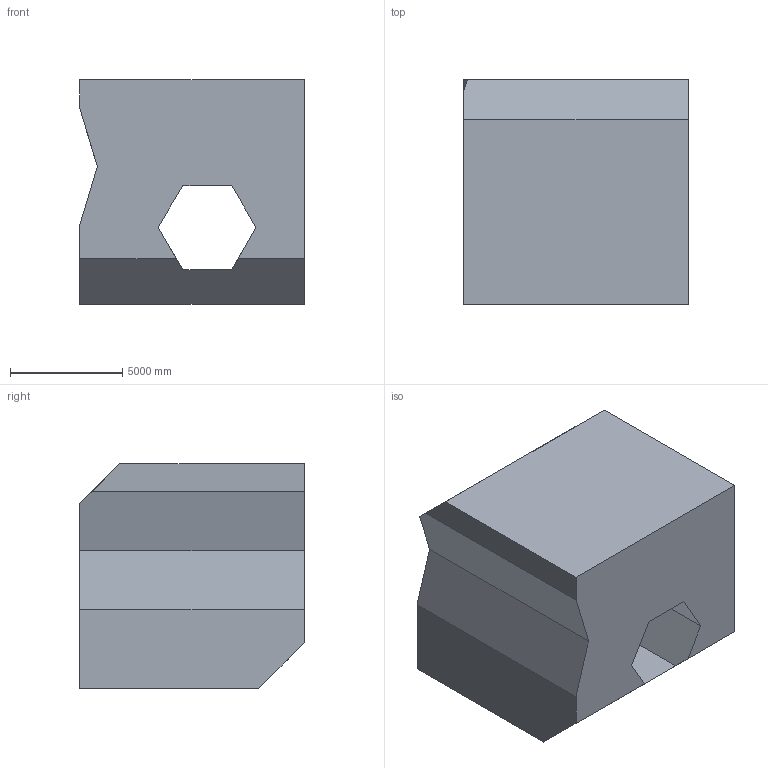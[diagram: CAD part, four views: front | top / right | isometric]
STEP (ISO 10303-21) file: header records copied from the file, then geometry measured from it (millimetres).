
FILE_DESCRIPTION (( 'STEP AP203' ), '1' );
FILE_NAME ('1334.STEP', '2022-08-25T14:51:58', ( 'user' ), ( '' ), 'SwSTEP 2.0', 'SolidWorks 2021', '' );
FILE_SCHEMA (( 'CONFIG_CONTROL_DESIGN' ));
Length unit declared in the file: centimetre
Products named in the file (1): 1334
Bounding box: 10000 x 10000 x 10000 mm (x, y, z)
Volume: 820289931276.7 mm3; surface area: 672238232.3 mm2
Topology: 1 solids, 1 shells, 17 faces, 48 edges, 32 vertices
Faces by surface type: plane 17
Entity records: 623 total; most frequent: CARTESIAN_POINT 98, ORIENTED_EDGE 96, DIRECTION 84, LINE 48, EDGE_CURVE 48, VECTOR 48, VERTEX_POINT 32, AXIS2_PLACEMENT_3D 18
